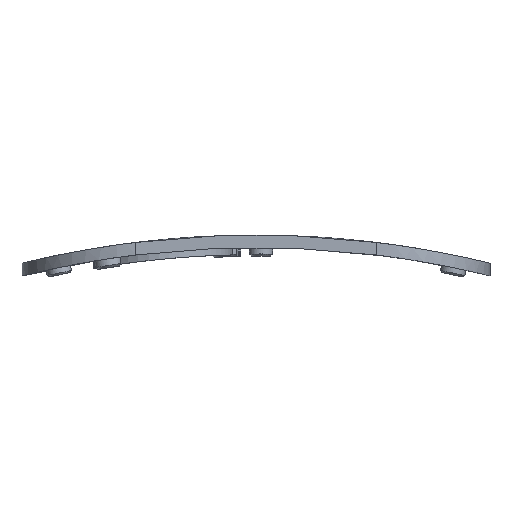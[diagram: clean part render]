
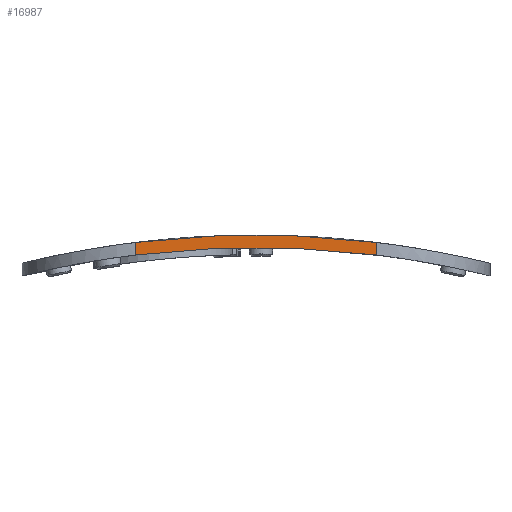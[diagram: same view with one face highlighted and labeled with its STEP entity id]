
A CAD part, front view. The second image highlights one B-rep face of the part: STEP entity #16987.
In plain terms, the highlighted planar face has unit normal (0, -1, 0).
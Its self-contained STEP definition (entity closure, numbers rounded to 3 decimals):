
#71 = CYLINDRICAL_SURFACE('',#72,111.371);
#72 = AXIS2_PLACEMENT_3D('',#73,#74,#75);
#73 = CARTESIAN_POINT('',(53.19,0.,-111.371));
#74 = DIRECTION('',(0.,-1.,0.));
#75 = DIRECTION('',(1.,0.,0.));
#98 = CYLINDRICAL_SURFACE('',#99,12.8);
#99 = AXIS2_PLACEMENT_3D('',#100,#101,#102);
#100 = CARTESIAN_POINT('',(39.64,8.32,2.));
#101 = DIRECTION('',(0.,0.,1.));
#102 = DIRECTION('',(1.,0.,0.));
#123 = CYLINDRICAL_SURFACE('',#124,109.971);
#124 = AXIS2_PLACEMENT_3D('',#125,#126,#127);
#125 = CARTESIAN_POINT('',(53.19,0.,-111.371));
#126 = DIRECTION('',(0.,-1.,0.));
#127 = DIRECTION('',(1.,0.,0.));
#280 = VERTEX_POINT('',#281);
#281 = CARTESIAN_POINT('',(39.64,-4.48,-2.238));
#407 = EDGE_CURVE('',#280,#408,#410,.T.);
#408 = VERTEX_POINT('',#409);
#409 = CARTESIAN_POINT('',(66.74,-4.48,-2.238));
#410 = SURFACE_CURVE('',#411,(#416,#423),.PCURVE_S1.);
#411 = CIRCLE('',#412,109.971);
#412 = AXIS2_PLACEMENT_3D('',#413,#414,#415);
#413 = CARTESIAN_POINT('',(53.19,-4.48,-111.371));
#414 = DIRECTION('',(-0.,1.,0.));
#415 = DIRECTION('',(1.,0.,0.));
#416 = PCURVE('',#123,#417);
#417 = DEFINITIONAL_REPRESENTATION('',(#418),#422);
#418 = LINE('',#419,#420);
#419 = CARTESIAN_POINT('',(6.283,4.48));
#420 = VECTOR('',#421,1.);
#421 = DIRECTION('',(-1.,-0.));
#422 = ( GEOMETRIC_REPRESENTATION_CONTEXT(2) 
PARAMETRIC_REPRESENTATION_CONTEXT() REPRESENTATION_CONTEXT('2D SPACE',''
  ) );
#423 = PCURVE('',#424,#429);
#424 = PLANE('',#425);
#425 = AXIS2_PLACEMENT_3D('',#426,#427,#428);
#426 = CARTESIAN_POINT('',(39.64,-4.48,2.));
#427 = DIRECTION('',(0.,-1.,0.));
#428 = DIRECTION('',(1.,0.,0.));
#429 = DEFINITIONAL_REPRESENTATION('',(#430),#438);
#430 = ( BOUNDED_CURVE() B_SPLINE_CURVE(2,(#431,#432,#433,#434,#435,#436
,#437),.UNSPECIFIED.,.T.,.F.) B_SPLINE_CURVE_WITH_KNOTS((1,2,2,2,2,1),(
    -2.094,0.,2.094,4.189,6.283,
8.378),.UNSPECIFIED.) CURVE() GEOMETRIC_REPRESENTATION_ITEM() 
RATIONAL_B_SPLINE_CURVE((1.,0.5,1.,0.5,1.,0.5,1.)) REPRESENTATION_ITEM(
  '') );
#431 = CARTESIAN_POINT('',(123.521,-113.371));
#432 = CARTESIAN_POINT('',(123.521,-303.848));
#433 = CARTESIAN_POINT('',(-41.436,-208.609));
#434 = CARTESIAN_POINT('',(-206.393,-113.371));
#435 = CARTESIAN_POINT('',(-41.436,-18.133));
#436 = CARTESIAN_POINT('',(123.521,77.105));
#437 = CARTESIAN_POINT('',(123.521,-113.371));
#438 = ( GEOMETRIC_REPRESENTATION_CONTEXT(2) 
PARAMETRIC_REPRESENTATION_CONTEXT() REPRESENTATION_CONTEXT('2D SPACE',''
  ) );
#489 = CYLINDRICAL_SURFACE('',#490,12.8);
#490 = AXIS2_PLACEMENT_3D('',#491,#492,#493);
#491 = CARTESIAN_POINT('',(66.74,8.32,2.));
#492 = DIRECTION('',(0.,0.,1.));
#493 = DIRECTION('',(1.,0.,0.));
#10861 = VERTEX_POINT('',#10862);
#10862 = CARTESIAN_POINT('',(39.64,-4.48,-0.827));
#10990 = EDGE_CURVE('',#10861,#280,#10991,.T.);
#10991 = SURFACE_CURVE('',#10992,(#10996,#11003),.PCURVE_S1.);
#10992 = LINE('',#10993,#10994);
#10993 = CARTESIAN_POINT('',(39.64,-4.48,2.));
#10994 = VECTOR('',#10995,1.);
#10995 = DIRECTION('',(-0.,-0.,-1.));
#10996 = PCURVE('',#98,#10997);
#10997 = DEFINITIONAL_REPRESENTATION('',(#10998),#11002);
#10998 = LINE('',#10999,#11000);
#10999 = CARTESIAN_POINT('',(4.712,0.));
#11000 = VECTOR('',#11001,1.);
#11001 = DIRECTION('',(0.,-1.));
#11002 = ( GEOMETRIC_REPRESENTATION_CONTEXT(2) 
PARAMETRIC_REPRESENTATION_CONTEXT() REPRESENTATION_CONTEXT('2D SPACE',''
  ) );
#11003 = PCURVE('',#424,#11004);
#11004 = DEFINITIONAL_REPRESENTATION('',(#11005),#11009);
#11005 = LINE('',#11006,#11007);
#11006 = CARTESIAN_POINT('',(0.,0.));
#11007 = VECTOR('',#11008,1.);
#11008 = DIRECTION('',(0.,-1.));
#11009 = ( GEOMETRIC_REPRESENTATION_CONTEXT(2) 
PARAMETRIC_REPRESENTATION_CONTEXT() REPRESENTATION_CONTEXT('2D SPACE',''
  ) );
#11015 = EDGE_CURVE('',#10861,#11016,#11018,.T.);
#11016 = VERTEX_POINT('',#11017);
#11017 = CARTESIAN_POINT('',(66.74,-4.48,-0.827));
#11018 = SURFACE_CURVE('',#11019,(#11024,#11031),.PCURVE_S1.);
#11019 = CIRCLE('',#11020,111.371);
#11020 = AXIS2_PLACEMENT_3D('',#11021,#11022,#11023);
#11021 = CARTESIAN_POINT('',(53.19,-4.48,-111.371));
#11022 = DIRECTION('',(-0.,1.,0.));
#11023 = DIRECTION('',(1.,0.,0.));
#11024 = PCURVE('',#71,#11025);
#11025 = DEFINITIONAL_REPRESENTATION('',(#11026),#11030);
#11026 = LINE('',#11027,#11028);
#11027 = CARTESIAN_POINT('',(6.283,4.48));
#11028 = VECTOR('',#11029,1.);
#11029 = DIRECTION('',(-1.,-0.));
#11030 = ( GEOMETRIC_REPRESENTATION_CONTEXT(2) 
PARAMETRIC_REPRESENTATION_CONTEXT() REPRESENTATION_CONTEXT('2D SPACE',''
  ) );
#11031 = PCURVE('',#424,#11032);
#11032 = DEFINITIONAL_REPRESENTATION('',(#11033),#11041);
#11033 = ( BOUNDED_CURVE() B_SPLINE_CURVE(2,(#11034,#11035,#11036,#11037
    ,#11038,#11039,#11040),.UNSPECIFIED.,.T.,.F.) 
B_SPLINE_CURVE_WITH_KNOTS((1,2,2,2,2,1),(-2.094,0.,
    2.094,4.189,6.283,8.378),
.UNSPECIFIED.) CURVE() GEOMETRIC_REPRESENTATION_ITEM() 
RATIONAL_B_SPLINE_CURVE((1.,0.5,1.,0.5,1.,0.5,1.)) REPRESENTATION_ITEM(
  '') );
#11034 = CARTESIAN_POINT('',(124.921,-113.371));
#11035 = CARTESIAN_POINT('',(124.921,-306.272));
#11036 = CARTESIAN_POINT('',(-42.136,-209.822));
#11037 = CARTESIAN_POINT('',(-209.193,-113.371));
#11038 = CARTESIAN_POINT('',(-42.136,-16.921));
#11039 = CARTESIAN_POINT('',(124.921,79.53));
#11040 = CARTESIAN_POINT('',(124.921,-113.371));
#11041 = ( GEOMETRIC_REPRESENTATION_CONTEXT(2) 
PARAMETRIC_REPRESENTATION_CONTEXT() REPRESENTATION_CONTEXT('2D SPACE',''
  ) );
#16987 = ADVANCED_FACE('',(#16988),#424,.T.);
#16988 = FACE_BOUND('',#16989,.T.);
#16989 = EDGE_LOOP('',(#16990,#16991,#16992,#16993));
#16990 = ORIENTED_EDGE('',*,*,#11015,.F.);
#16991 = ORIENTED_EDGE('',*,*,#10990,.T.);
#16992 = ORIENTED_EDGE('',*,*,#407,.T.);
#16993 = ORIENTED_EDGE('',*,*,#16994,.F.);
#16994 = EDGE_CURVE('',#11016,#408,#16995,.T.);
#16995 = SURFACE_CURVE('',#16996,(#17000,#17007),.PCURVE_S1.);
#16996 = LINE('',#16997,#16998);
#16997 = CARTESIAN_POINT('',(66.74,-4.48,2.));
#16998 = VECTOR('',#16999,1.);
#16999 = DIRECTION('',(-0.,-0.,-1.));
#17000 = PCURVE('',#424,#17001);
#17001 = DEFINITIONAL_REPRESENTATION('',(#17002),#17006);
#17002 = LINE('',#17003,#17004);
#17003 = CARTESIAN_POINT('',(27.1,0.));
#17004 = VECTOR('',#17005,1.);
#17005 = DIRECTION('',(0.,-1.));
#17006 = ( GEOMETRIC_REPRESENTATION_CONTEXT(2) 
PARAMETRIC_REPRESENTATION_CONTEXT() REPRESENTATION_CONTEXT('2D SPACE',''
  ) );
#17007 = PCURVE('',#489,#17008);
#17008 = DEFINITIONAL_REPRESENTATION('',(#17009),#17013);
#17009 = LINE('',#17010,#17011);
#17010 = CARTESIAN_POINT('',(4.712,0.));
#17011 = VECTOR('',#17012,1.);
#17012 = DIRECTION('',(0.,-1.));
#17013 = ( GEOMETRIC_REPRESENTATION_CONTEXT(2) 
PARAMETRIC_REPRESENTATION_CONTEXT() REPRESENTATION_CONTEXT('2D SPACE',''
  ) );
